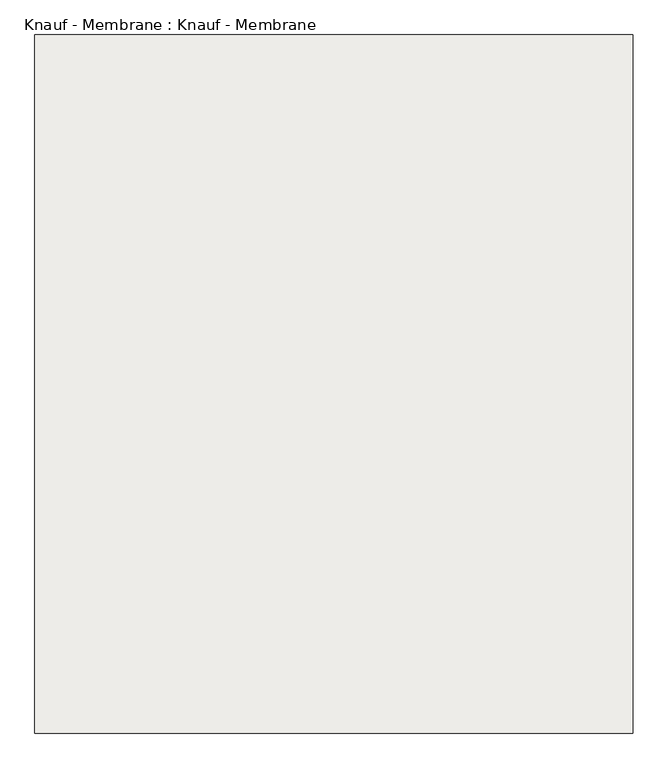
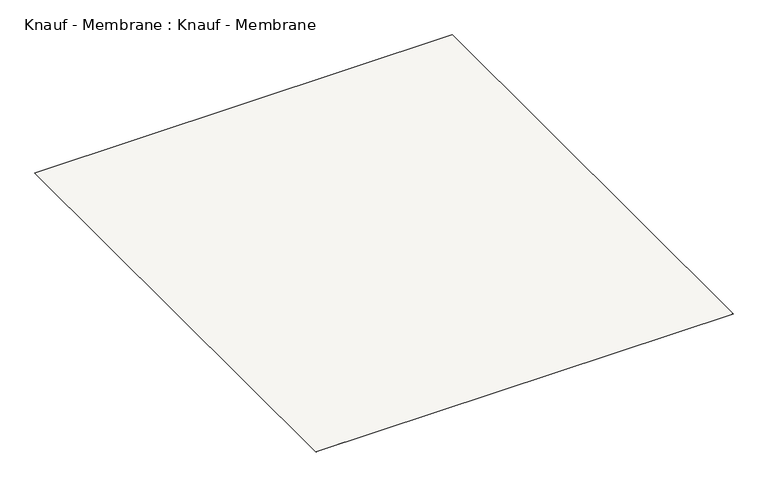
"""IFC4 building model written with IfcOpenShell, lengths in millimetres: slab geometry, Knauf - Membrane : Knauf - Membrane."""

from ifc_helpers import new_model, si_unit, frame, origin, place, context, project, spatial, polyline, outline, extrude, source, transform, mapped, element, save


def knauf_membrane_knauf_membrane_b3caecf7(model_context):
    return source(origin(), model_context, "Body", "SweptSolid", [
        extrude(outline(polyline([(20416.285179, 16926.9464372), (20416.285179, 15176.9464372), (18916.285179, 15176.9464372), (18916.285179, 16926.9464372), (20416.285179, 16926.9464372)])), frame((0.0, 0.0, -156.0), z_axis=(0.0, 0.0, 1.0), x_axis=(1.0, 0.0, 0.0)), (0.0, 0.0, 1.0), 1.0),
    ])


if __name__ == "__main__":
    model = new_model("IFC4")
    model_context = context("Model", 3, world=origin())
    ifc_project = project(units=[si_unit("LENGTHUNIT", "METRE", prefix="MILLI")], contexts=[model_context])
    site = spatial("IfcSite", under=ifc_project)
    building = spatial("IfcBuilding", under=site)
    placement = place(None, origin())
    knauf_membrane_knauf_membrane_shape = knauf_membrane_knauf_membrane_b3caecf7(model_context)
    element("IfcSlab", 1, ObjectType="Knauf - Membrane : Knauf - Membrane", at=placement, inside=building, context=model_context, shape_type="MappedRepresentation", body=[
        mapped(knauf_membrane_knauf_membrane_shape, transform((0.0, 0.0, 0.0), x_axis=(1.0, 0.0, 0.0), y_axis=(0.0, 1.0, 0.0), z_axis=(0.0, 0.0, 1.0))),
    ])
    save(model, "model.ifc")
